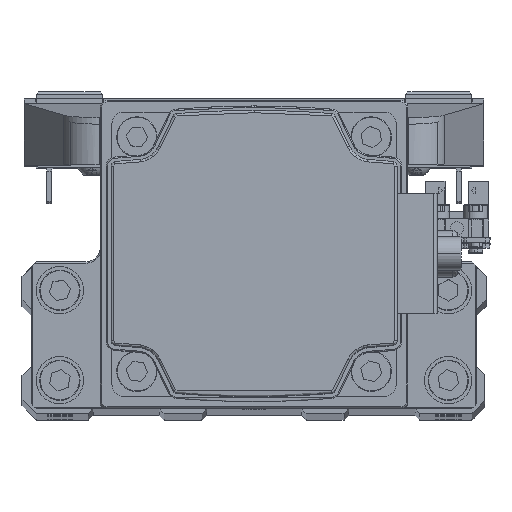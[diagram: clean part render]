
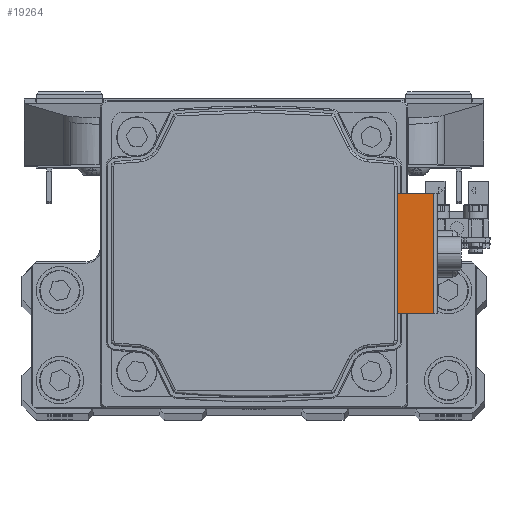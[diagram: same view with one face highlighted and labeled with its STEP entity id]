
A CAD part, top view. The second image highlights one B-rep face of the part: STEP entity #19264.
In plain terms, the highlighted planar face has unit normal (0, 0, 1) as drawn and (0, 0, -1) by its records, which use the part's own axes.
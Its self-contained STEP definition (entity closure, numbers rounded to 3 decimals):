
#564 = DIRECTION ( 'NONE',  ( 1., 0., 0. ) ) ;
#1334 = VERTEX_POINT ( 'NONE', #11241 ) ;
#2131 = CARTESIAN_POINT ( 'NONE',  ( 0., 37.9, -88.696 ) ) ;
#3899 = CARTESIAN_POINT ( 'NONE',  ( -12.75, 37.9, -88.696 ) ) ;
#6512 = EDGE_CURVE ( 'NONE', #1334, #33611, #31002, .T. ) ;
#10330 = EDGE_CURVE ( 'NONE', #1334, #38132, #36112, .T. ) ;
#11241 = CARTESIAN_POINT ( 'NONE',  ( -12.75, 30.2, -88.696 ) ) ;
#12046 = EDGE_CURVE ( 'NONE', #38132, #26675, #18420, .T. ) ;
#13140 = DIRECTION ( 'NONE',  ( 1., 0., 0. ) ) ;
#13786 = VECTOR ( 'NONE', #564, 1000. ) ;
#15090 = CARTESIAN_POINT ( 'NONE',  ( 12.75, 30.2, -88.696 ) ) ;
#15769 = CARTESIAN_POINT ( 'NONE',  ( -12.75, 37.9, -88.696 ) ) ;
#16458 = DIRECTION ( 'NONE',  ( 0., 0., -1. ) ) ;
#17501 = LINE ( 'NONE', #31845, #20181 ) ;
#17934 = EDGE_LOOP ( 'NONE', ( #37116, #44275, #26069, #35767 ) ) ;
#18240 = DIRECTION ( 'NONE',  ( 0., 1., 0. ) ) ;
#18420 = LINE ( 'NONE', #32767, #13786 ) ;
#19264 = ADVANCED_FACE ( 'NONE', ( #19975 ), #34329, .T. ) ;
#19808 = CARTESIAN_POINT ( 'NONE',  ( 12.75, 37.9, -88.696 ) ) ;
#19975 = FACE_OUTER_BOUND ( 'NONE', #17934, .T. ) ;
#20061 = AXIS2_PLACEMENT_3D ( 'NONE', #2131, #16458, #30792 ) ;
#20181 = VECTOR ( 'NONE', #46220, 1000. ) ;
#23413 = VECTOR ( 'NONE', #18240, 1000. ) ;
#26069 = ORIENTED_EDGE ( 'NONE', *, *, #30701, .F. ) ;
#26675 = VERTEX_POINT ( 'NONE', #19808 ) ;
#30701 = EDGE_CURVE ( 'NONE', #33611, #26675, #17501, .T. ) ;
#30792 = DIRECTION ( 'NONE',  ( -1., 0., 0. ) ) ;
#31002 = LINE ( 'NONE', #45385, #39048 ) ;
#31845 = CARTESIAN_POINT ( 'NONE',  ( 12.75, 33.991, -88.696 ) ) ;
#32767 = CARTESIAN_POINT ( 'NONE',  ( 0., 37.9, -88.696 ) ) ;
#33611 = VERTEX_POINT ( 'NONE', #15090 ) ;
#34329 = PLANE ( 'NONE',  #20061 ) ;
#35767 = ORIENTED_EDGE ( 'NONE', *, *, #6512, .F. ) ;
#36112 = LINE ( 'NONE', #3899, #23413 ) ;
#37116 = ORIENTED_EDGE ( 'NONE', *, *, #10330, .T. ) ;
#38132 = VERTEX_POINT ( 'NONE', #15769 ) ;
#39048 = VECTOR ( 'NONE', #13140, 1000. ) ;
#44275 = ORIENTED_EDGE ( 'NONE', *, *, #12046, .T. ) ;
#45385 = CARTESIAN_POINT ( 'NONE',  ( 18.438, 30.2, -88.696 ) ) ;
#46220 = DIRECTION ( 'NONE',  ( 0., 1., 0. ) ) ;
